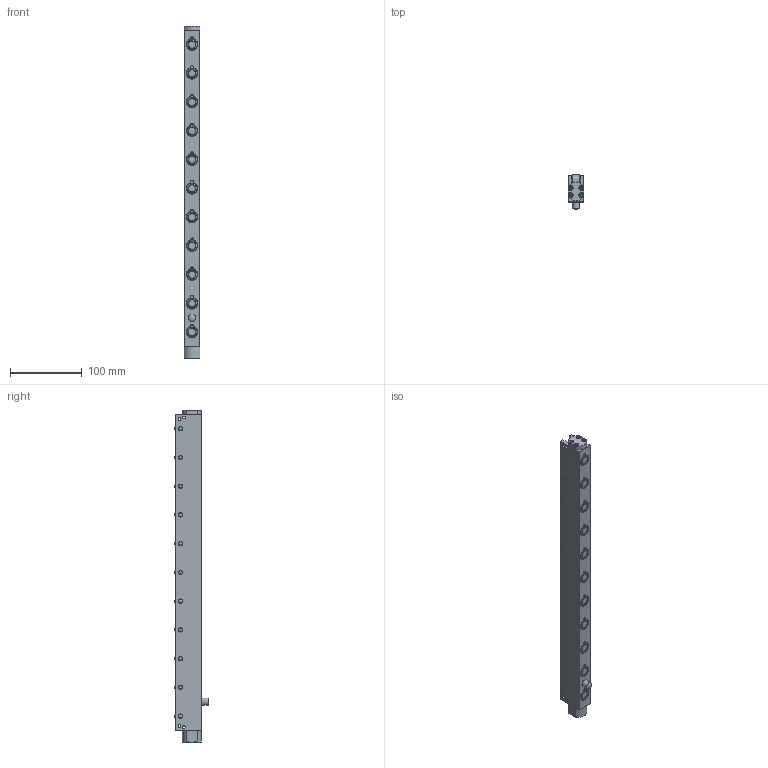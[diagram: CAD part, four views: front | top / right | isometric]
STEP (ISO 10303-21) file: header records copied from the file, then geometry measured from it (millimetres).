
FILE_DESCRIPTION(/* description */ (''),/* implementation_level */ '2;1');
FILE_NAME(/* name */ 'S:\EASCN Vault\Designs\Standard Part\DIE LIFTERS\EHR\EHR- 3D step\EHR22 - 3D step complete serie\EHR22-11.stp',/* time_stamp */ '2019-07-30T16:02:02+08:00',/* author */ ('yue.yang'),/* organization */ (''),/* preprocessor_version */ 'ST-DEVELOPER v17',/* originating_system */ 'Autodesk Inventor 2019',/* authorisation */ '');
FILE_SCHEMA (('AUTOMOTIVE_DESIGN { 1 0 10303 214 3 1 1 }'));
Length unit declared in the file: millimetre
Products named in the file (1): EHR22-11_Shrinkwrap_1
Bounding box: 21.8 x 48.05 x 462 mm (x, y, z)
Volume: 279924.3 mm3; surface area: 110377.7 mm2
Topology: 1 solids, 1 shells, 766 faces, 2171 edges, 1506 vertices
Faces by surface type: cylinder 251, plane 233, cone 138, torus 121, sphere 23
Full cylindrical faces by diameter (mm): 3 x9, 3.2 x8, 4 x8, 5 x44, 6 x20, 8.566 x1, 10 x3, 11 x11, 12.5 x22, 13.4 x11, 13.8 x11, 15.95 x22, 16 x33
Entity records: 27941 total; most frequent: CARTESIAN_POINT 6304, DIRECTION 4764, ORIENTED_EDGE 4304, EDGE_CURVE 2152, AXIS2_PLACEMENT_3D 2086, VERTEX_POINT 1506, CIRCLE 1319, EDGE_LOOP 922
